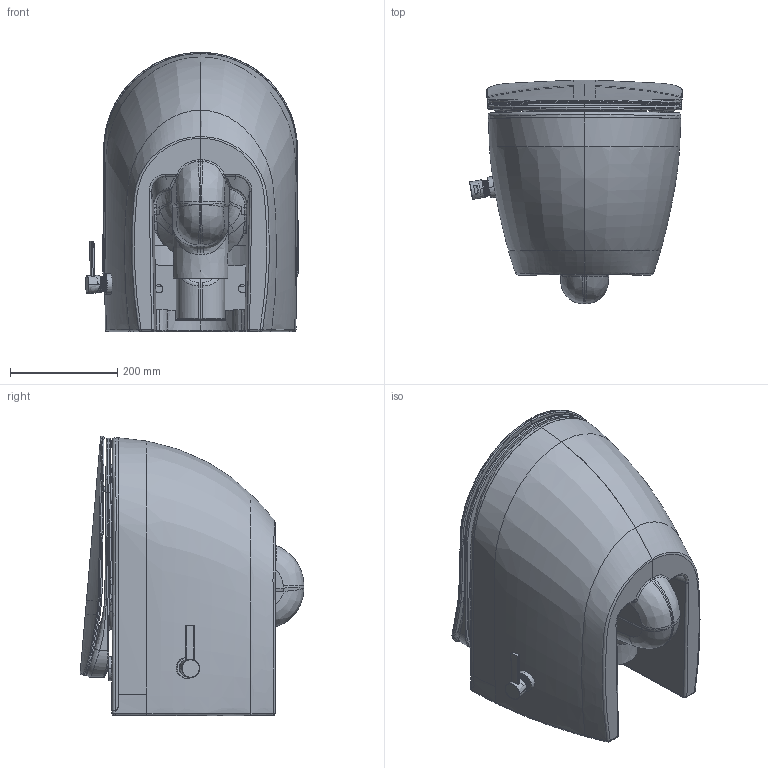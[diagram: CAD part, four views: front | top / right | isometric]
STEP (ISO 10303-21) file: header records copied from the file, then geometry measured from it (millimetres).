
FILE_DESCRIPTION (( 'STEP AP203' ), '1' );
FILE_NAME ('FE322 - KC4080 Yeni Taharet Musluk 11.05.2020.STEP', '2020-05-11T08:30:12', ( '' ), ( '' ), 'SwSTEP 2.0', 'SolidWorks 2020', '' );
FILE_SCHEMA (( 'CONFIG_CONTROL_DESIGN' ));
Products named in the file (1): FE322 - KC4080 Yeni Taharet Musluk 11.05.2020
Bounding box: 397.24 x 417.28 x 520.77 mm (x, y, z)
Volume: 18371927.8 mm3; surface area: 2363699 mm2
Topology: 25 solids, 25 shells, 1635 faces, 4167 edges, 2578 vertices
Faces by surface type: bspline 941, cylinder 328, plane 255, torus 58, cone 28, sphere 25
Entity records: 490475 total; most frequent: CARTESIAN_POINT 459430, ORIENTED_EDGE 8254, EDGE_CURVE 4127, DIRECTION 3798, VERTEX_POINT 2577, B_SPLINE_CURVE_WITH_KNOTS 2367, EDGE_LOOP 1690, ADVANCED_FACE 1635
